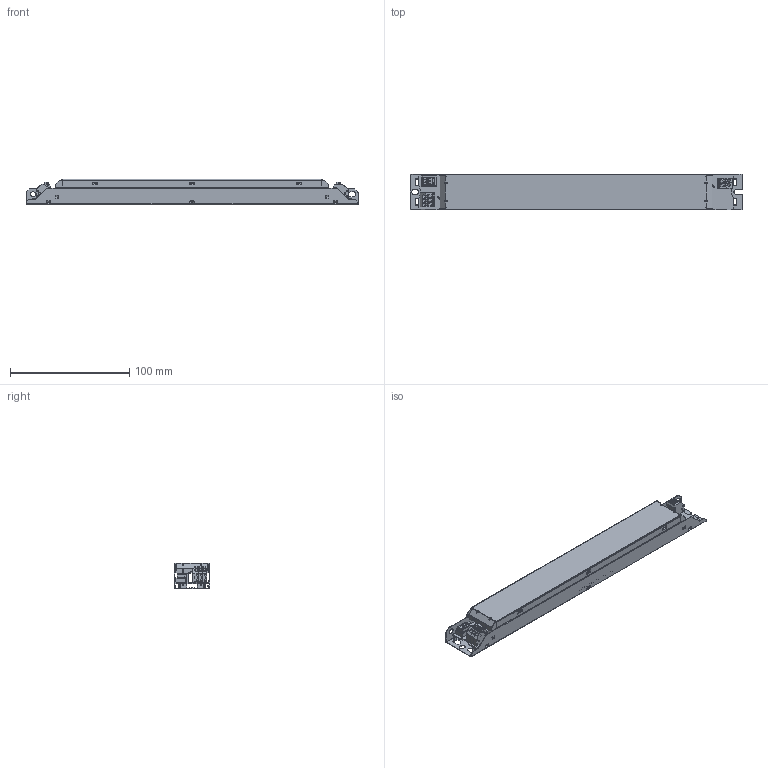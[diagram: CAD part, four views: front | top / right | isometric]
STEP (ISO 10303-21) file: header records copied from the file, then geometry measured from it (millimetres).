
FILE_DESCRIPTION((''),'2;1');
FILE_NAME('ASM0016_ASM','2023-09-20T',('Administrator'),(''),'PRO/ENGINEER BY PARAMETRIC TECHNOLOGY CORPORATION, 2010280','PRO/ENGINEER BY PARAMETRIC TECHNOLOGY CORPORATION, 2010280','');
FILE_SCHEMA(('CONFIG_CONTROL_DESIGN'));
Products named in the file (22): PRT0023; PRT0027; PRT0028; ASM0017_ASM; PRT0032; PRT0033; ASM0021_ASM; PRT0034; ASM0020_ASM; ASM0019_ASM; ASM0018_ASM; PCB-JXD-BOMAQI; MANIFOLD_SOLID_BREP_29400; MANIFOLD_SOLID_BREP_30433; PCB-JXD-RED__1_ASM; PCB-JXD-BLACK__1-35397; MANIFOLD_SOLID_BREP_39096; MANIFOLD_SOLID_BREP_40129; PCB-JXD-HUI_1_ASM; PVB-HUI-ZHISE_ASM_1_ASM; PVB-HUI-ZHISE_ASM_ASM; ASM0016_ASM
Assembly tree (21 placements, depth 6):
  ASM0016_ASM
    ASM0017_ASM
      PRT0023
      PRT0027
      PRT0028
    ASM0018_ASM
      ASM0019_ASM
        ASM0020_ASM
          ASM0021_ASM
            PRT0032
            PRT0033
          PRT0034
    PCB-JXD-BOMAQI
    PVB-HUI-ZHISE_ASM_ASM
      PVB-HUI-ZHISE_ASM_1_ASM
        PCB-JXD-RED__1_ASM
          MANIFOLD_SOLID_BREP_29400
          MANIFOLD_SOLID_BREP_30433
        PCB-JXD-BLACK__1-35397
        PCB-JXD-HUI_1_ASM
          MANIFOLD_SOLID_BREP_39096
          MANIFOLD_SOLID_BREP_40129
Bounding box: 278 x 30.02 x 21.04 mm (x, y, z)
Volume: 14474.4 mm3; surface area: 76698.7 mm2
Topology: 8 solids, 315 shells, 1899 faces, 6009 edges, 4380 vertices
Faces by surface type: plane 1022, cylinder 677, sphere 84, bspline 84, cone 24, torus 8
Entity records: 79350 total; most frequent: CARTESIAN_POINT 27033, ORIENTED_EDGE 10236, DIRECTION 10216, EDGE_CURVE 5917, VERTEX_POINT 4380, VECTOR 3922, LINE 3922, AXIS2_PLACEMENT_3D 3147
